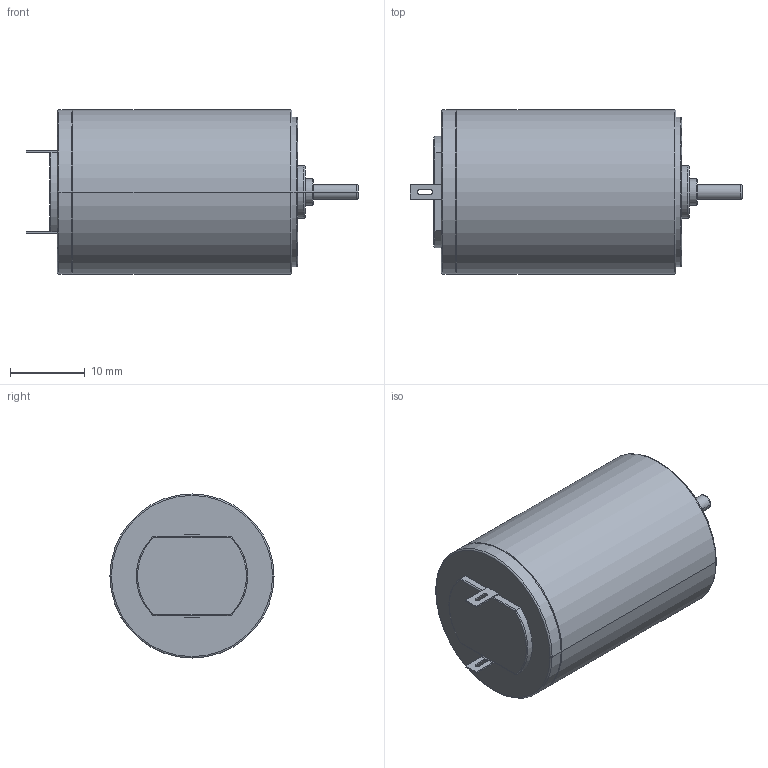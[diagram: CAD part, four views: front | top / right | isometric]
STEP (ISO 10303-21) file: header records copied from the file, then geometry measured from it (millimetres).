
FILE_DESCRIPTION((''),'2;1');
FILE_NAME('34844','2010-11-02T',('carefree'),(''),'PRO/ENGINEER BY PARAMETRIC TECHNOLOGY CORPORATION, 2005030','PRO/ENGINEER BY PARAMETRIC TECHNOLOGY CORPORATION, 2005030','');
FILE_SCHEMA(('CONFIG_CONTROL_DESIGN'));
Length unit declared in the file: millimetre
Products named in the file (1): 34844
Bounding box: 44.5 x 22 x 22 mm (x, y, z)
Volume: 12332.4 mm3; surface area: 3246.2 mm2
Topology: 1 solids, 1 shells, 83 faces, 190 edges, 118 vertices
Faces by surface type: cylinder 36, plane 31, torus 16
Entity records: 2416 total; most frequent: DIRECTION 450, CARTESIAN_POINT 415, ORIENTED_EDGE 380, EDGE_CURVE 190, AXIS2_PLACEMENT_3D 181, VERTEX_POINT 118, CIRCLE 98, EDGE_LOOP 96
